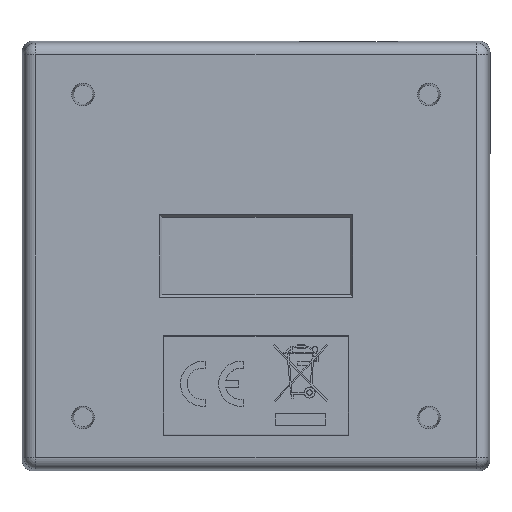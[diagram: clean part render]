
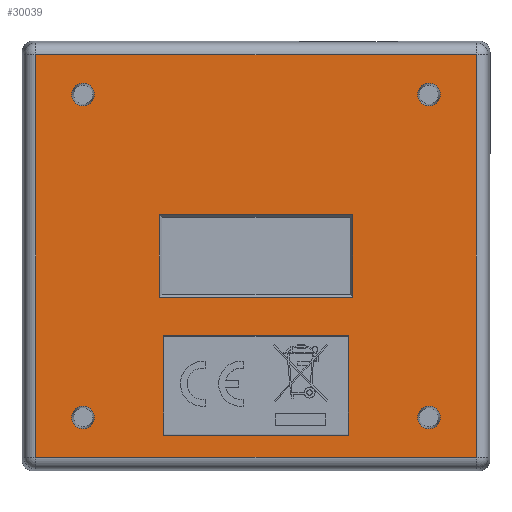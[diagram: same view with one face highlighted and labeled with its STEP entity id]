
A CAD part, front view. The second image highlights one B-rep face of the part: STEP entity #30039.
In plain terms, the highlighted planar face has unit normal (0, -1, 0) as drawn and (0, 0, -1) by its records, which use the part's own axes.
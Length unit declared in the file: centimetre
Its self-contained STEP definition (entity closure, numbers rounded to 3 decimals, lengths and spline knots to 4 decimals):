
#10861=CIRCLE('',#31158,0.1249);
#10862=CIRCLE('',#31159,0.1249);
#10863=CIRCLE('',#31160,0.1249);
#10864=CIRCLE('',#31161,0.1249);
#11462=VERTEX_POINT('',#37828);
#11463=VERTEX_POINT('',#37830);
#11465=VERTEX_POINT('',#37836);
#11467=VERTEX_POINT('',#37842);
#11592=VERTEX_POINT('',#38257);
#11593=VERTEX_POINT('',#38259);
#11595=VERTEX_POINT('',#38265);
#11597=VERTEX_POINT('',#38271);
#11718=VERTEX_POINT('',#39343);
#11719=VERTEX_POINT('',#39345);
#11720=VERTEX_POINT('',#39347);
#11721=VERTEX_POINT('',#39349);
#11722=VERTEX_POINT('',#39351);
#11723=VERTEX_POINT('',#39352);
#11724=VERTEX_POINT('',#39354);
#11725=VERTEX_POINT('',#39356);
#13434=VECTOR('',#32744,1.);
#13437=VECTOR('',#32748,1.);
#13440=VECTOR('',#32752,1.);
#13443=VECTOR('',#32756,1.);
#13602=VECTOR('',#32993,1.);
#13605=VECTOR('',#32997,1.);
#13608=VECTOR('',#33001,1.);
#13611=VECTOR('',#33005,1.);
#13772=VECTOR('',#33238,1.);
#13773=VECTOR('',#33239,1.);
#13774=VECTOR('',#33240,1.);
#13775=VECTOR('',#33241,1.);
#15885=LINE('',#37829,#13434);
#15888=LINE('',#37835,#13437);
#15891=LINE('',#37841,#13440);
#15894=LINE('',#37846,#13443);
#16053=LINE('',#38258,#13602);
#16056=LINE('',#38264,#13605);
#16059=LINE('',#38270,#13608);
#16062=LINE('',#38275,#13611);
#16223=LINE('',#39350,#13772);
#16224=LINE('',#39353,#13773);
#16225=LINE('',#39355,#13774);
#16226=LINE('',#39357,#13775);
#18336=EDGE_CURVE('',#11463,#11462,#15885,.T.);
#18339=EDGE_CURVE('',#11465,#11463,#15888,.T.);
#18342=EDGE_CURVE('',#11467,#11465,#15891,.T.);
#18345=EDGE_CURVE('',#11462,#11467,#15894,.T.);
#18522=EDGE_CURVE('',#11593,#11592,#16053,.F.);
#18525=EDGE_CURVE('',#11595,#11593,#16056,.F.);
#18528=EDGE_CURVE('',#11597,#11595,#16059,.F.);
#18531=EDGE_CURVE('',#11592,#11597,#16062,.F.);
#18712=EDGE_CURVE('',#11718,#11718,#10861,.F.);
#18713=EDGE_CURVE('',#11719,#11719,#10862,.F.);
#18714=EDGE_CURVE('',#11720,#11720,#10863,.F.);
#18715=EDGE_CURVE('',#11721,#11721,#10864,.F.);
#18716=EDGE_CURVE('',#11722,#11723,#16223,.T.);
#18717=EDGE_CURVE('',#11724,#11722,#16224,.T.);
#18718=EDGE_CURVE('',#11725,#11724,#16225,.T.);
#18719=EDGE_CURVE('',#11723,#11725,#16226,.T.);
#22076=ORIENTED_EDGE('',*,*,#18336,.T.);
#22077=ORIENTED_EDGE('',*,*,#18345,.T.);
#22078=ORIENTED_EDGE('',*,*,#18342,.T.);
#22079=ORIENTED_EDGE('',*,*,#18339,.T.);
#22080=ORIENTED_EDGE('',*,*,#18712,.T.);
#22081=ORIENTED_EDGE('',*,*,#18713,.T.);
#22082=ORIENTED_EDGE('',*,*,#18714,.T.);
#22083=ORIENTED_EDGE('',*,*,#18715,.T.);
#22084=ORIENTED_EDGE('',*,*,#18716,.F.);
#22085=ORIENTED_EDGE('',*,*,#18717,.F.);
#22086=ORIENTED_EDGE('',*,*,#18718,.F.);
#22087=ORIENTED_EDGE('',*,*,#18719,.F.);
#22088=ORIENTED_EDGE('',*,*,#18522,.T.);
#22089=ORIENTED_EDGE('',*,*,#18531,.T.);
#22090=ORIENTED_EDGE('',*,*,#18528,.T.);
#22091=ORIENTED_EDGE('',*,*,#18525,.T.);
#27545=EDGE_LOOP('',(#22076,#22077,#22078,#22079));
#27546=EDGE_LOOP('',(#22080));
#27547=EDGE_LOOP('',(#22081));
#27548=EDGE_LOOP('',(#22082));
#27549=EDGE_LOOP('',(#22083));
#27550=EDGE_LOOP('',(#22084,#22085,#22086,#22087));
#27551=EDGE_LOOP('',(#22088,#22089,#22090,#22091));
#28799=FACE_BOUND('',#27545,.T.);
#28800=FACE_BOUND('',#27546,.T.);
#28801=FACE_BOUND('',#27547,.T.);
#28802=FACE_BOUND('',#27548,.T.);
#28803=FACE_BOUND('',#27549,.T.);
#28804=FACE_BOUND('',#27550,.T.);
#28805=FACE_BOUND('',#27551,.T.);
#30039=ADVANCED_FACE('',(#28799,#28800,#28801,#28802,#28803,#28804,#28805),
#46446,.F.);
#31157=AXIS2_PLACEMENT_3D('',#39341,#33229,$);
#31158=AXIS2_PLACEMENT_3D('',#39342,#33230,#33231);
#31159=AXIS2_PLACEMENT_3D('',#39344,#33232,#33233);
#31160=AXIS2_PLACEMENT_3D('',#39346,#33234,#33235);
#31161=AXIS2_PLACEMENT_3D('',#39348,#33236,#33237);
#32744=DIRECTION('',(1.,0.,0.));
#32748=DIRECTION('',(0.,-1.,0.));
#32752=DIRECTION('',(-1.,0.,0.));
#32756=DIRECTION('',(0.,1.,0.));
#32993=DIRECTION('',(-1.,0.,0.));
#32997=DIRECTION('',(0.,1.,0.));
#33001=DIRECTION('',(1.,0.,0.));
#33005=DIRECTION('',(0.,-1.,0.));
#33229=DIRECTION('',(0.,0.,1.));
#33230=DIRECTION('',(0.,0.,-1.));
#33231=DIRECTION('',(-0.125,0.,0.));
#33232=DIRECTION('',(0.,0.,-1.));
#33233=DIRECTION('',(-0.125,0.,0.));
#33234=DIRECTION('',(0.,0.,-1.));
#33235=DIRECTION('',(-0.125,0.,0.));
#33236=DIRECTION('',(0.,0.,-1.));
#33237=DIRECTION('',(-0.125,0.,0.));
#33238=DIRECTION('',(-1.,0.,0.));
#33239=DIRECTION('',(0.,1.,0.));
#33240=DIRECTION('',(1.,0.,0.));
#33241=DIRECTION('',(0.,-1.,0.));
#37828=CARTESIAN_POINT('',(1.0668,-0.4572,-0.0032));
#37829=CARTESIAN_POINT('',(0.5334,-0.4572,-0.0032));
#37830=CARTESIAN_POINT('',(-1.0668,-0.4572,-0.0032));
#37835=CARTESIAN_POINT('',(-1.0668,-0.2286,-0.0032));
#37836=CARTESIAN_POINT('',(-1.0668,0.4572,-0.0032));
#37841=CARTESIAN_POINT('',(-0.5334,0.4572,-0.0032));
#37842=CARTESIAN_POINT('',(1.0668,0.4572,-0.0032));
#37846=CARTESIAN_POINT('',(1.0668,0.2286,-0.0032));
#38257=CARTESIAN_POINT('',(1.0231,-1.9728,-0.0032));
#38258=CARTESIAN_POINT('',(0.,-1.9728,-0.0032));
#38259=CARTESIAN_POINT('',(-1.0231,-1.9728,-0.0032));
#38264=CARTESIAN_POINT('',(-1.0231,-0.3565,-0.0032));
#38265=CARTESIAN_POINT('',(-1.0231,-0.879,-0.0032));
#38270=CARTESIAN_POINT('',(0.,-0.879,-0.0032));
#38271=CARTESIAN_POINT('',(1.0231,-0.879,-0.0032));
#38275=CARTESIAN_POINT('',(1.0231,-0.3565,-0.0032));
#39341=CARTESIAN_POINT('',(0.,0.,-0.0032));
#39342=CARTESIAN_POINT('',(1.905,1.778,-0.0032));
#39343=CARTESIAN_POINT('',(2.0299,1.778,-0.0032));
#39344=CARTESIAN_POINT('',(1.905,-1.778,-0.0032));
#39345=CARTESIAN_POINT('',(2.0299,-1.778,-0.0032));
#39346=CARTESIAN_POINT('',(-1.905,-1.778,-0.0032));
#39347=CARTESIAN_POINT('',(-1.7801,-1.778,-0.0032));
#39348=CARTESIAN_POINT('',(-1.905,1.778,-0.0032));
#39349=CARTESIAN_POINT('',(-1.7801,1.778,-0.0032));
#39350=CARTESIAN_POINT('',(0.,2.2197,-0.0032));
#39351=CARTESIAN_POINT('',(2.4292,2.2197,-0.0032));
#39352=CARTESIAN_POINT('',(-2.4292,2.2197,-0.0032));
#39353=CARTESIAN_POINT('',(2.4292,0.,-0.0032));
#39354=CARTESIAN_POINT('',(2.4292,-2.2197,-0.0032));
#39355=CARTESIAN_POINT('',(0.,-2.2197,-0.0032));
#39356=CARTESIAN_POINT('',(-2.4292,-2.2197,-0.0032));
#39357=CARTESIAN_POINT('',(-2.4292,0.,-0.0032));
#46446=PLANE('',#31157);
